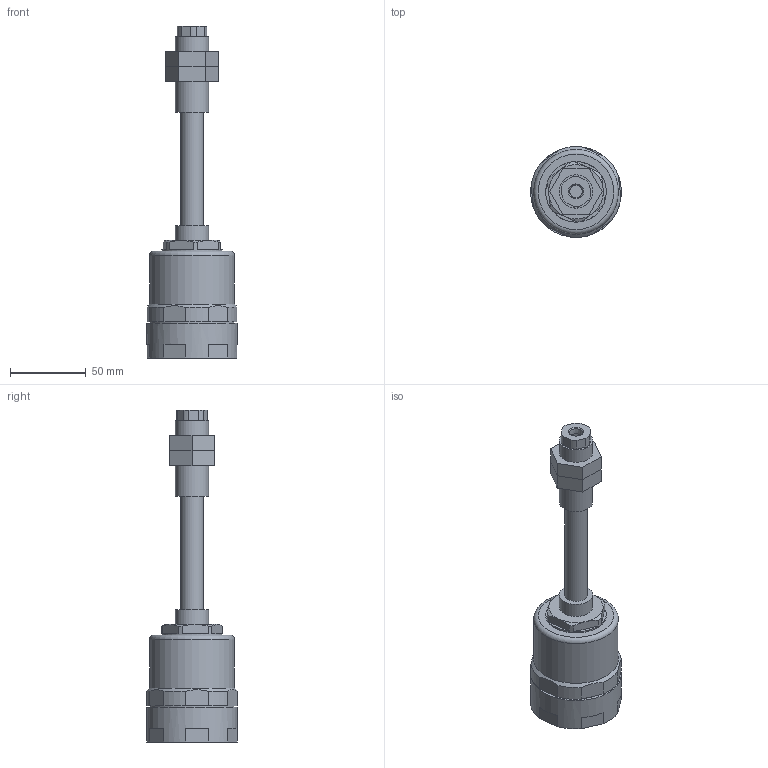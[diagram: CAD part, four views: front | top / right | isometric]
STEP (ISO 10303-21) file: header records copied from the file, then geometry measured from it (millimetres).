
FILE_DESCRIPTION(('STEP AP203'),'1');
FILE_NAME(').stp','2020-04-09T00:06:14',(' '),(' '),'Spatial InterOp 3D',' ',' ');
FILE_SCHEMA(('CONFIG_CONTROL_DESIGN'));
Length unit declared in the file: millimetre
Products named in the file (6): _____1; パーツ4; パーツ3; SGC-033-50-T; パーツ1
Assembly tree (5 placements, depth 3):
  SGC-033-50-T
    _____1
      パーツ4
      パーツ4
      パーツ3
    パーツ1
Bounding box: 60 x 60 x 219.5 mm (x, y, z)
Volume: 156509.8 mm3; surface area: 44821.4 mm2
Topology: 4 solids, 4 shells, 111 faces, 265 edges, 172 vertices
Faces by surface type: plane 72, cylinder 25, cone 12, torus 2
Full cylindrical faces by diameter (mm): 8.2 x1, 15 x2, 22 x4, 38.8 x1, 40 x1, 46 x1, 56 x2, 60 x1
Entity records: 3484 total; most frequent: CARTESIAN_POINT 648, DIRECTION 544, ORIENTED_EDGE 482, EDGE_CURVE 241, AXIS2_PLACEMENT_3D 203, VERTEX_POINT 169, EDGE_LOOP 148, LINE 138
